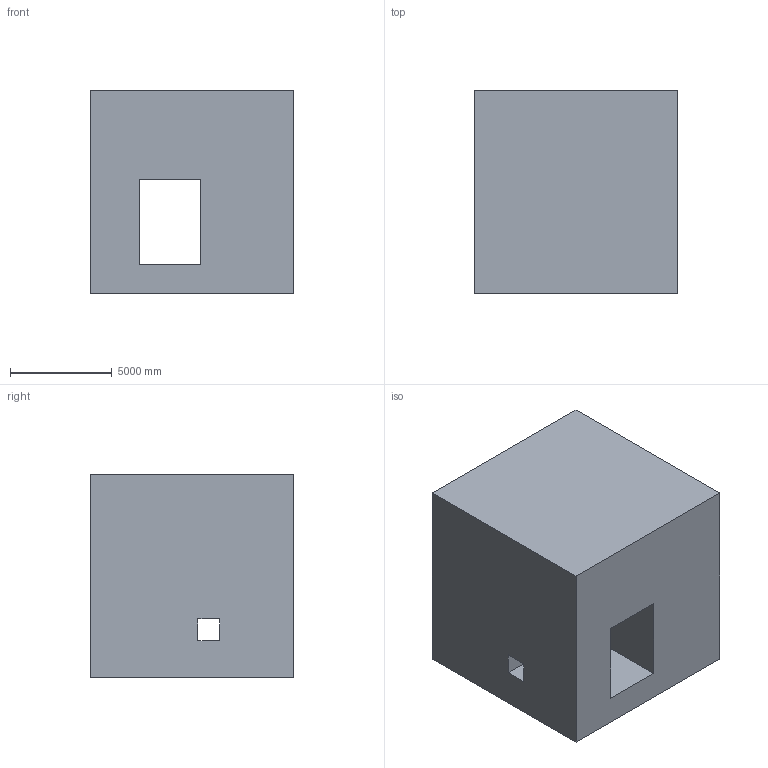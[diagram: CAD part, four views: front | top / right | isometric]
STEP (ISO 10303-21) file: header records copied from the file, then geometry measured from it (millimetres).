
FILE_DESCRIPTION (( 'STEP AP203' ), '1' );
FILE_NAME ('119.STEP', '2022-09-06T15:07:46', ( 'user' ), ( '' ), 'SwSTEP 2.0', 'SolidWorks 2021', '' );
FILE_SCHEMA (( 'CONFIG_CONTROL_DESIGN' ));
Length unit declared in the file: centimetre
Products named in the file (1): 119
Bounding box: 10000 x 10000 x 10000 mm (x, y, z)
Volume: 865467703620 mm3; surface area: 744418239 mm2
Topology: 1 solids, 1 shells, 18 faces, 48 edges, 32 vertices
Faces by surface type: plane 18
Entity records: 641 total; most frequent: CARTESIAN_POINT 99, ORIENTED_EDGE 96, DIRECTION 86, LINE 48, VECTOR 48, EDGE_CURVE 48, VERTEX_POINT 32, EDGE_LOOP 24
